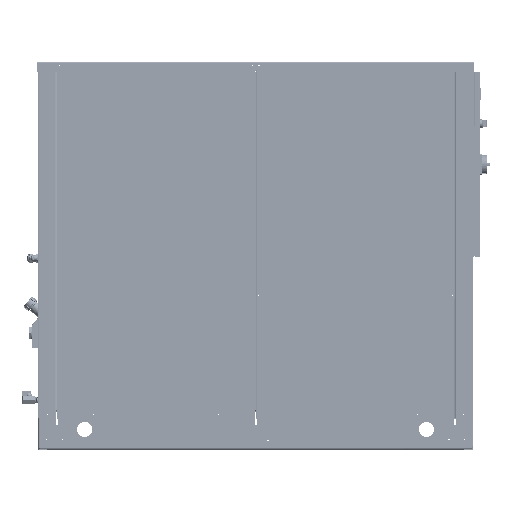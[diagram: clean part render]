
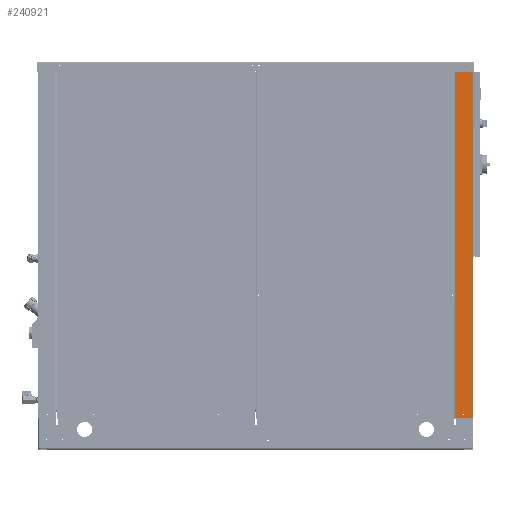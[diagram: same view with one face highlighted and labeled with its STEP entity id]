
A CAD part, top view. The second image highlights one B-rep face of the part: STEP entity #240921.
In plain terms, the highlighted planar face has unit normal (0, 0, 1).
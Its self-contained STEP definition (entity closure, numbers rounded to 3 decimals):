
#1282 = CARTESIAN_POINT ( 'NONE',  ( -576.5, 56.6, 112. ) ) ;
#2165 = CARTESIAN_POINT ( 'NONE',  ( 576.5, 56.6, 112. ) ) ;
#4161 = EDGE_CURVE ( 'NONE', #83870, #43918, #207077, .T. ) ;
#10896 = ORIENTED_EDGE ( 'NONE', *, *, #211290, .F. ) ;
#11528 = EDGE_CURVE ( 'NONE', #17740, #125563, #149742, .T. ) ;
#13151 = CARTESIAN_POINT ( 'NONE',  ( 565.492, 28.55, 112. ) ) ;
#14255 = VECTOR ( 'NONE', #101170, 1000. ) ;
#16400 = DIRECTION ( 'NONE',  ( 1., 0., 0. ) ) ;
#17740 = VERTEX_POINT ( 'NONE', #27824 ) ;
#18721 = VERTEX_POINT ( 'NONE', #84618 ) ;
#19529 = CARTESIAN_POINT ( 'NONE',  ( -560.996, 32., 112. ) ) ;
#19837 = EDGE_CURVE ( 'NONE', #17740, #111542, #157571, .T. ) ;
#23780 = VERTEX_POINT ( 'NONE', #130900 ) ;
#26674 = ORIENTED_EDGE ( 'NONE', *, *, #19837, .F. ) ;
#27824 = CARTESIAN_POINT ( 'NONE',  ( -576.5, 2.4, 112. ) ) ;
#28497 = CARTESIAN_POINT ( 'NONE',  ( -563.996, 32., 112. ) ) ;
#30719 = ORIENTED_EDGE ( 'NONE', *, *, #11528, .T. ) ;
#32067 = DIRECTION ( 'NONE',  ( -0.5, -0.866, 0. ) ) ;
#33223 = DIRECTION ( 'NONE',  ( 0.5, -0.866, 0. ) ) ;
#33248 = LINE ( 'NONE', #105249, #214970 ) ;
#33664 = ORIENTED_EDGE ( 'NONE', *, *, #217203, .F. ) ;
#35329 = EDGE_CURVE ( 'NONE', #43918, #23780, #37012, .T. ) ;
#36328 = CARTESIAN_POINT ( 'NONE',  ( -563.996, 32., 112. ) ) ;
#37012 = LINE ( 'NONE', #72840, #59533 ) ;
#43918 = VERTEX_POINT ( 'NONE', #74134 ) ;
#48724 = DIRECTION ( 'NONE',  ( 0., -1., 0. ) ) ;
#50005 = ORIENTED_EDGE ( 'NONE', *, *, #230688, .F. ) ;
#50449 = DIRECTION ( 'NONE',  ( 0., 0., 1. ) ) ;
#51707 = CARTESIAN_POINT ( 'NONE',  ( 567.484, 32., 112. ) ) ;
#59533 = VECTOR ( 'NONE', #33223, 1000. ) ;
#60479 = LINE ( 'NONE', #160091, #111098 ) ;
#65357 = FACE_OUTER_BOUND ( 'NONE', #87677, .T. ) ;
#67125 = VECTOR ( 'NONE', #105290, 1000. ) ;
#67914 = CARTESIAN_POINT ( 'NONE',  ( 567.484, 32., 112. ) ) ;
#68104 = DIRECTION ( 'NONE',  ( 0., 0., 1. ) ) ;
#68373 = ORIENTED_EDGE ( 'NONE', *, *, #249908, .F. ) ;
#71749 = AXIS2_PLACEMENT_3D ( 'NONE', #28497, #68104, #245553 ) ;
#72678 = LINE ( 'NONE', #231017, #200336 ) ;
#72730 = CARTESIAN_POINT ( 'NONE',  ( 576.5, 2.4, 112. ) ) ;
#72840 = CARTESIAN_POINT ( 'NONE',  ( 559.516, 32., 112. ) ) ;
#73560 = ORIENTED_EDGE ( 'NONE', *, *, #94265, .F. ) ;
#74134 = CARTESIAN_POINT ( 'NONE',  ( 559.516, 32., 112. ) ) ;
#74449 = VECTOR ( 'NONE', #145853, 1000. ) ;
#83221 = CARTESIAN_POINT ( 'NONE',  ( 576.5, 1.2, 112. ) ) ;
#83870 = VERTEX_POINT ( 'NONE', #207145 ) ;
#84618 = CARTESIAN_POINT ( 'NONE',  ( 565.492, 35.45, 112. ) ) ;
#84801 = DIRECTION ( 'NONE',  ( -1., 0., 0. ) ) ;
#87677 = EDGE_LOOP ( 'NONE', ( #10896, #159856, #26674, #30719 ) ) ;
#88342 = CARTESIAN_POINT ( 'NONE',  ( 561.508, 35.45, 112. ) ) ;
#89565 = DIRECTION ( 'NONE',  ( 0., 0., 1. ) ) ;
#90036 = DIRECTION ( 'NONE',  ( 1., 0., 0. ) ) ;
#94265 = EDGE_CURVE ( 'NONE', #23780, #116212, #72678, .T. ) ;
#101170 = DIRECTION ( 'NONE',  ( 0., -1., 0. ) ) ;
#105249 = CARTESIAN_POINT ( 'NONE',  ( 576.5, 56.6, 112. ) ) ;
#105290 = DIRECTION ( 'NONE',  ( 0.5, 0.866, 0. ) ) ;
#108605 = CIRCLE ( 'NONE', #71749, 3. ) ;
#110150 = DIRECTION ( 'NONE',  ( 1., 0., 0. ) ) ;
#111098 = VECTOR ( 'NONE', #200923, 1000. ) ;
#111542 = VERTEX_POINT ( 'NONE', #1282 ) ;
#114026 = VERTEX_POINT ( 'NONE', #19529 ) ;
#116212 = VERTEX_POINT ( 'NONE', #13151 ) ;
#116250 = ORIENTED_EDGE ( 'NONE', *, *, #147687, .F. ) ;
#119574 = EDGE_CURVE ( 'NONE', #116212, #198131, #225247, .T. ) ;
#125563 = VERTEX_POINT ( 'NONE', #72730 ) ;
#130900 = CARTESIAN_POINT ( 'NONE',  ( 561.508, 28.55, 112. ) ) ;
#143315 = CARTESIAN_POINT ( 'NONE',  ( 0., 0., 112. ) ) ;
#143620 = CARTESIAN_POINT ( 'NONE',  ( 565.492, 28.55, 112. ) ) ;
#143940 = ORIENTED_EDGE ( 'NONE', *, *, #4161, .F. ) ;
#144582 = FACE_BOUND ( 'NONE', #194693, .T. ) ;
#145853 = DIRECTION ( 'NONE',  ( -0.5, 0.866, 0. ) ) ;
#147687 = EDGE_CURVE ( 'NONE', #198131, #18721, #168728, .T. ) ;
#149742 = LINE ( 'NONE', #249268, #171658 ) ;
#157571 = LINE ( 'NONE', #235462, #192135 ) ;
#158673 = LINE ( 'NONE', #83221, #14255 ) ;
#159248 = VERTEX_POINT ( 'NONE', #221617 ) ;
#159856 = ORIENTED_EDGE ( 'NONE', *, *, #239435, .T. ) ;
#160091 = CARTESIAN_POINT ( 'NONE',  ( 565.492, 35.45, 112. ) ) ;
#160752 = EDGE_LOOP ( 'NONE', ( #33664, #68373 ) ) ;
#166225 = FACE_BOUND ( 'NONE', #160752, .T. ) ;
#167226 = ORIENTED_EDGE ( 'NONE', *, *, #119574, .F. ) ;
#168728 = LINE ( 'NONE', #67914, #74449 ) ;
#171658 = VECTOR ( 'NONE', #110150, 1000. ) ;
#179290 = ORIENTED_EDGE ( 'NONE', *, *, #35329, .F. ) ;
#192135 = VECTOR ( 'NONE', #236707, 1000. ) ;
#194693 = EDGE_LOOP ( 'NONE', ( #167226, #73560, #179290, #143940, #50005, #116250 ) ) ;
#195081 = AXIS2_PLACEMENT_3D ( 'NONE', #36328, #50449, #90036 ) ;
#198131 = VERTEX_POINT ( 'NONE', #51707 ) ;
#200336 = VECTOR ( 'NONE', #16400, 1000. ) ;
#200923 = DIRECTION ( 'NONE',  ( -1., 0., 0. ) ) ;
#207077 = LINE ( 'NONE', #88342, #235488 ) ;
#207145 = CARTESIAN_POINT ( 'NONE',  ( 561.508, 35.45, 112. ) ) ;
#207284 = CIRCLE ( 'NONE', #195081, 3. ) ;
#211013 = VERTEX_POINT ( 'NONE', #2165 ) ;
#211290 = EDGE_CURVE ( 'NONE', #211013, #125563, #158673, .T. ) ;
#214970 = VECTOR ( 'NONE', #84801, 1000. ) ;
#217203 = EDGE_CURVE ( 'NONE', #114026, #159248, #108605, .T. ) ;
#221179 = PLANE ( 'NONE',  #223520 ) ;
#221617 = CARTESIAN_POINT ( 'NONE',  ( -566.996, 32., 112. ) ) ;
#223520 = AXIS2_PLACEMENT_3D ( 'NONE', #143315, #89565, #48724 ) ;
#225247 = LINE ( 'NONE', #143620, #67125 ) ;
#230688 = EDGE_CURVE ( 'NONE', #18721, #83870, #60479, .T. ) ;
#231017 = CARTESIAN_POINT ( 'NONE',  ( 561.508, 28.55, 112. ) ) ;
#235462 = CARTESIAN_POINT ( 'NONE',  ( -576.5, 59., 112. ) ) ;
#235488 = VECTOR ( 'NONE', #32067, 1000. ) ;
#236707 = DIRECTION ( 'NONE',  ( 0., 1., 0. ) ) ;
#239435 = EDGE_CURVE ( 'NONE', #211013, #111542, #33248, .T. ) ;
#240921 = ADVANCED_FACE ( 'NONE', ( #144582, #166225, #65357 ), #221179, .T. ) ;
#245553 = DIRECTION ( 'NONE',  ( 1., 0., 0. ) ) ;
#249268 = CARTESIAN_POINT ( 'NONE',  ( 0., 2.4, 112. ) ) ;
#249908 = EDGE_CURVE ( 'NONE', #159248, #114026, #207284, .T. ) ;
